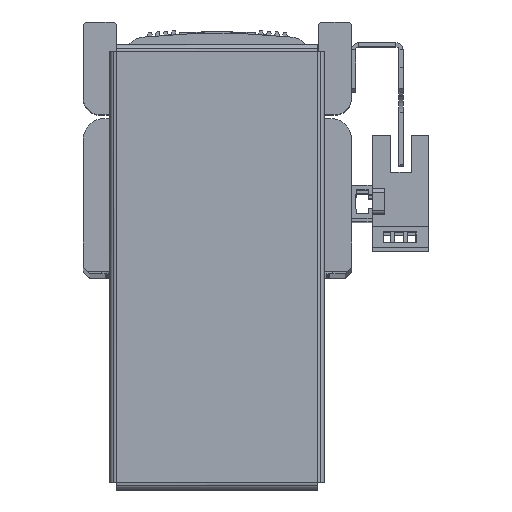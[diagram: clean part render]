
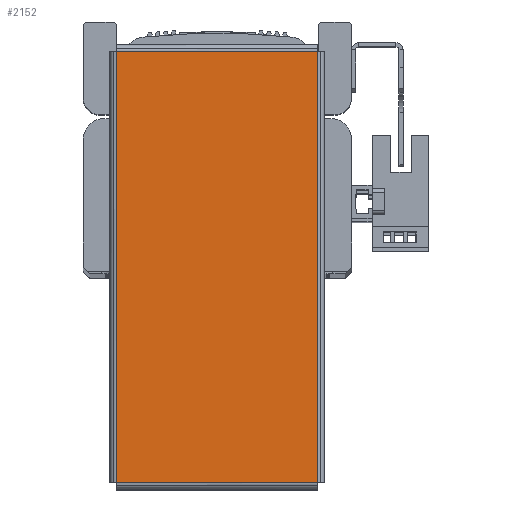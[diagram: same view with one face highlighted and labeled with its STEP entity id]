
A CAD part, top view. The second image highlights one B-rep face of the part: STEP entity #2152.
In plain terms, the highlighted planar face has unit normal (0, 0, 1) as drawn and (0, 0, -1) by its records, which use the part's own axes.
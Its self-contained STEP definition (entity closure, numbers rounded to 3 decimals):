
#454 = EDGE_CURVE ( 'NONE', #27272, #11845, #36446, .T. ) ;
#498 = EDGE_CURVE ( 'NONE', #11793, #27272, #36743, .T. ) ;
#517 = EDGE_CURVE ( 'NONE', #11842, #11793, #36914, .T. ) ;
#562 = EDGE_CURVE ( 'NONE', #11845, #11842, #36983, .T. ) ;
#1301 = AXIS2_PLACEMENT_3D ( 'NONE', #34286, #34292, #34244 ) ;
#2152 = ADVANCED_FACE ( 'NONE', ( #30432 ), #34285, .F. ) ;
#4608 = CARTESIAN_POINT ( 'NONE',  ( 52.293, -24.363, -1. ) ) ;
#4630 = DIRECTION ( 'NONE',  ( -1., 0., 0. ) ) ;
#4684 = CARTESIAN_POINT ( 'NONE',  ( 52.263, 24.393, -1. ) ) ;
#4703 = DIRECTION ( 'NONE',  ( 0., -1., 0. ) ) ;
#4758 = CARTESIAN_POINT ( 'NONE',  ( -52.293, 24.363, -1. ) ) ;
#4762 = DIRECTION ( 'NONE',  ( 1., 0., 0. ) ) ;
#4873 = CARTESIAN_POINT ( 'NONE',  ( -52.263, -24.393, -1. ) ) ;
#4882 = DIRECTION ( 'NONE',  ( 0., 1., 0. ) ) ;
#11793 = VERTEX_POINT ( 'NONE', #19532 ) ;
#11842 = VERTEX_POINT ( 'NONE', #19618 ) ;
#11845 = VERTEX_POINT ( 'NONE', #19613 ) ;
#18402 = EDGE_LOOP ( 'NONE', ( #29182, #29183, #29230, #29203 ) ) ;
#19532 = CARTESIAN_POINT ( 'NONE',  ( 52.263, 24.363, -1. ) ) ;
#19613 = CARTESIAN_POINT ( 'NONE',  ( -52.263, -24.363, -1. ) ) ;
#19618 = CARTESIAN_POINT ( 'NONE',  ( -52.263, 24.363, -1. ) ) ;
#27272 = VERTEX_POINT ( 'NONE', #36798 ) ;
#29182 = ORIENTED_EDGE ( 'NONE', *, *, #498, .T. ) ;
#29183 = ORIENTED_EDGE ( 'NONE', *, *, #454, .T. ) ;
#29203 = ORIENTED_EDGE ( 'NONE', *, *, #517, .T. ) ;
#29230 = ORIENTED_EDGE ( 'NONE', *, *, #562, .T. ) ;
#30432 = FACE_OUTER_BOUND ( 'NONE', #18402, .T. ) ;
#34244 = DIRECTION ( 'NONE',  ( 1., 0., 0. ) ) ;
#34285 = PLANE ( 'NONE',  #1301 ) ;
#34286 = CARTESIAN_POINT ( 'NONE',  ( 0., 0., -1. ) ) ;
#34292 = DIRECTION ( 'NONE',  ( 0., 0., 1. ) ) ;
#36446 = LINE ( 'NONE', #4608, #36517 ) ;
#36517 = VECTOR ( 'NONE', #4630, 1000. ) ;
#36743 = LINE ( 'NONE', #4684, #36749 ) ;
#36749 = VECTOR ( 'NONE', #4703, 1000. ) ;
#36798 = CARTESIAN_POINT ( 'NONE',  ( 52.263, -24.363, -1. ) ) ;
#36914 = LINE ( 'NONE', #4758, #36927 ) ;
#36927 = VECTOR ( 'NONE', #4762, 1000. ) ;
#36983 = LINE ( 'NONE', #4873, #37024 ) ;
#37024 = VECTOR ( 'NONE', #4882, 1000. ) ;
